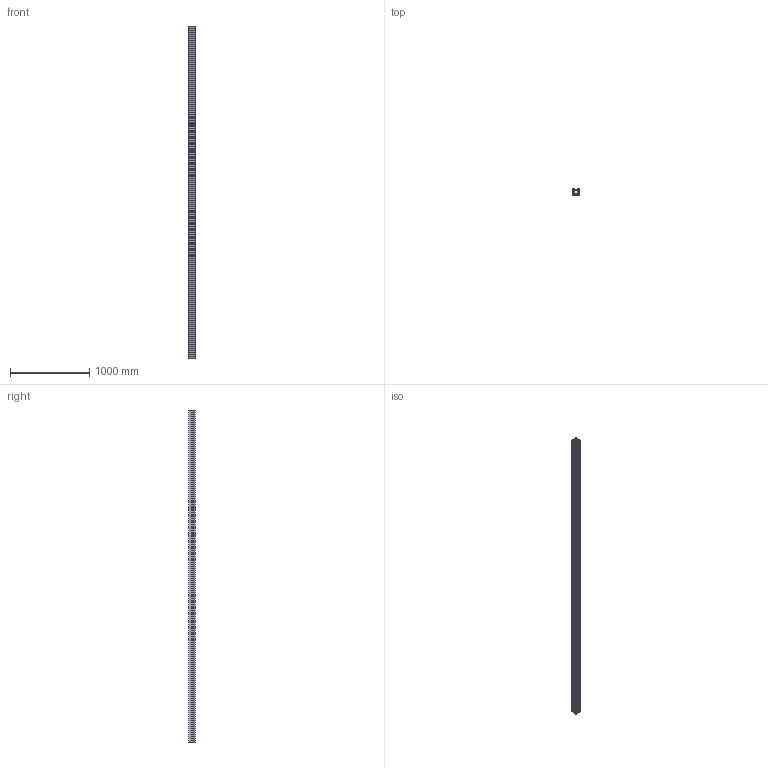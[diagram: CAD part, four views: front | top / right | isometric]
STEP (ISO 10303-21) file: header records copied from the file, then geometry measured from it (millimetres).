
FILE_DESCRIPTION (( 'STEP AP203' ), '1' );
FILE_NAME ('_-_MLF 4 4198 mm lang.step', '2005-09-01T12:47:05', ( ' ' ), ( ' ' ), 'SwSTEP 2.0', 'SolidWorks 2005187', '' );
FILE_SCHEMA (( 'CONFIG_CONTROL_DESIGN' ));
Length unit declared in the file: millimetre
Products named in the file (1): _-_MLF 4  4198 mm lang
Bounding box: 87.59 x 80 x 4198 mm (x, y, z)
Volume: 9673064.2 mm3; surface area: 5183599.7 mm2
Topology: 1 solids, 1 shells, 248 faces, 762 edges, 500 vertices
Faces by surface type: plane 174, cylinder 74
Entity records: 8575 total; most frequent: ORIENTED_EDGE 1524, CARTESIAN_POINT 1511, DIRECTION 1408, EDGE_CURVE 762, LINE 614, VECTOR 614, VERTEX_POINT 500, AXIS2_PLACEMENT_3D 397
